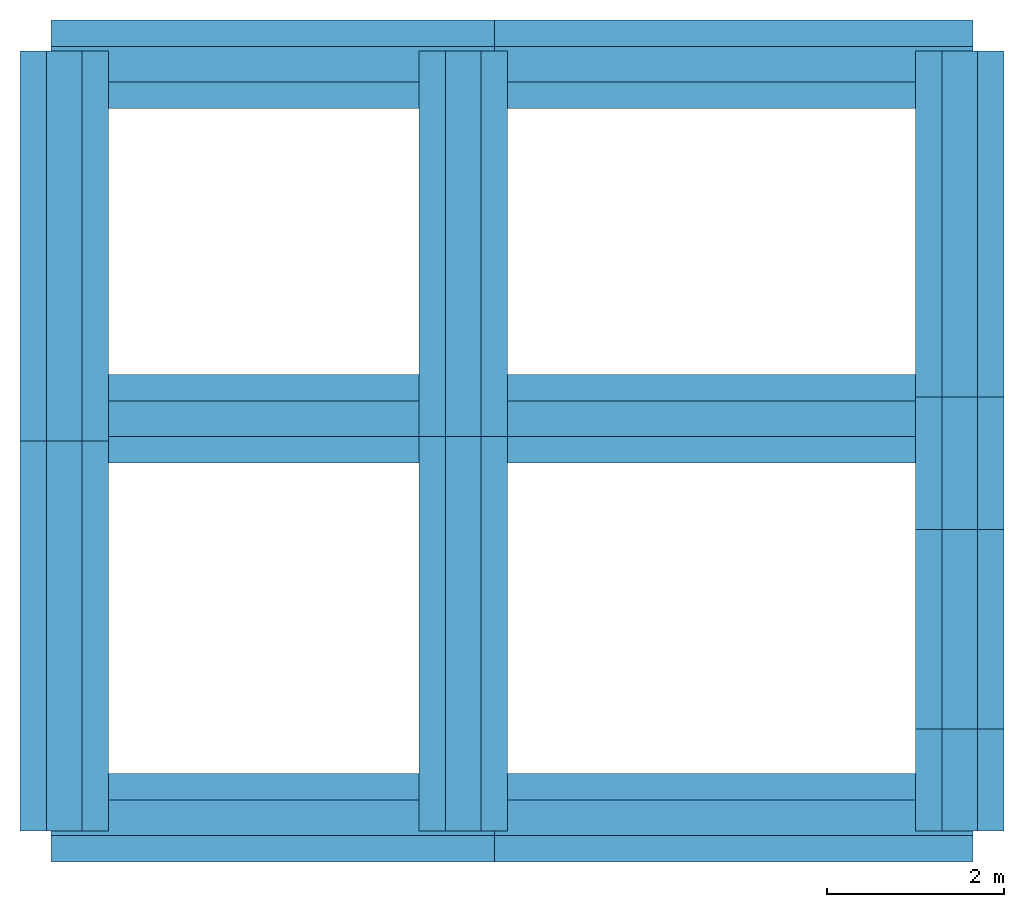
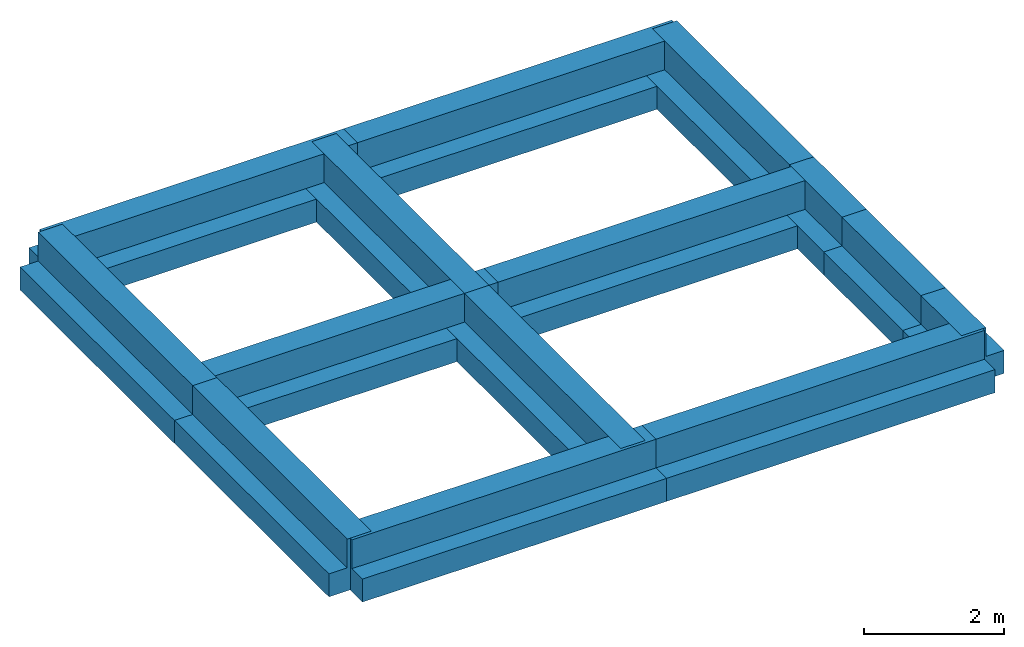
# One storey: 14 beams.
"""IFC2X3 building model written with IfcOpenShell, lengths in metres."""

from ifc_helpers import new_model, si_unit, direction, frame, origin, place, context, project, spatial, polyline, outline, extrude, shape, element, save


model = new_model("IFC2X3")

# Units and contexts
model_context = context("Model", 3, precision=0.0, world=origin(), true_north=direction((0.0, 1.0)))
plan_context = context("Plan", 3, precision=0.0, world=origin(), true_north=direction((0.0, 1.0)))
ifc_project = project(units=[si_unit("LENGTHUNIT", "METRE"), si_unit("AREAUNIT", "SQUARE_METRE"), si_unit("VOLUMEUNIT", "CUBIC_METRE"), si_unit("PLANEANGLEUNIT", "RADIAN"), si_unit("THERMODYNAMICTEMPERATUREUNIT", "DEGREE_CELSIUS"), si_unit("FORCEUNIT", "NEWTON"), si_unit("MASSUNIT", "GRAM", prefix="KILO")], contexts=[model_context, plan_context])

# Site, building, storey
placement = place(None, origin())
site = spatial("IfcSite", under=ifc_project, at=placement, Name="Default Site", CompositionType="ELEMENT")
building = spatial("IfcBuilding", under=site, at=placement, Name="Default Building", CompositionType="ELEMENT")
storey_placement = place(placement, frame((0.0, 0.0, 0.0), z_axis=(1.0, 0.0, 0.0), x_axis=(0.0, 0.0, 1.0)))
storey = spatial("IfcBuildingStorey", under=building, at=storey_placement, Name="Piano 0", CompositionType="ELEMENT", Elevation=0.0)

# Beams
beam_1_placement = place(None, frame((-0.15, 0.0, -0.55), z_axis=(1.0, 0.0, 0.0), x_axis=(0.0, 1.0, 0.0)))
element("IfcBeam", 1, at=beam_1_placement, inside=storey, Name="Trave:1 [Piano:0]", shapes=[
    shape(model_context, None, "SweptSolid", [extrude(outline(polyline([(-0.2, 0.05), (-0.2, 0.55), (0.2, 0.55), (0.2, 0.05), (0.5, 0.05), (0.5, -0.35), (-0.5, -0.35), (-0.5, 0.05)])), origin(), (0.0, 0.0, 1.0), 5.0)]),
])
beam_2_placement = place(None, frame((4.15, 0.0, -0.55), z_axis=(1.0, 0.0, 0.0), x_axis=(0.0, 1.0, 0.0)))
element("IfcBeam", 2, at=beam_2_placement, inside=storey, Name="Trave:2 [Piano:0]", shapes=[
    shape(model_context, None, "SweptSolid", [extrude(outline(polyline([(-0.2, 0.05), (-0.2, 0.55), (0.2, 0.55), (0.2, 0.05), (0.5, 0.05), (0.5, -0.35), (-0.5, -0.35), (-0.5, 0.05)])), origin(), (0.0, 0.0, 1.0), 6.1)]),
])
beam_3_placement = place(None, frame((-0.15, 4.5, -0.55), z_axis=(1.0, 0.0, 0.0), x_axis=(0.0, 1.0, 0.0)))
element("IfcBeam", 3, at=beam_3_placement, inside=storey, Name="Trave:3 [Piano:0]", shapes=[
    shape(model_context, None, "SweptSolid", [extrude(outline(polyline([(-0.2, 0.05), (-0.2, 0.55), (0.2, 0.55), (0.2, 0.05), (0.5, 0.05), (0.5, -0.35), (-0.5, -0.35), (-0.5, 0.05)])), origin(), (0.0, 0.0, 1.0), 5.0)]),
])
beam_4_placement = place(None, frame((4.15, 4.5, -0.55), z_axis=(1.0, 0.0, 0.0), x_axis=(0.0, 1.0, 0.0)))
element("IfcBeam", 4, at=beam_4_placement, inside=storey, Name="Trave:4 [Piano:0]", shapes=[
    shape(model_context, None, "SweptSolid", [extrude(outline(polyline([(-0.2, 0.05), (-0.2, 0.55), (0.2, 0.55), (0.2, 0.05), (0.5, 0.05), (0.5, -0.35), (-0.5, -0.35), (-0.5, 0.05)])), origin(), (0.0, 0.0, 1.0), 6.1)]),
])
beam_5_placement = place(None, frame((-0.15, 8.5, -0.55), z_axis=(1.0, 0.0, 0.0), x_axis=(0.0, 1.0, 0.0)))
element("IfcBeam", 5, at=beam_5_placement, inside=storey, Name="Trave:5 [Piano:0]", shapes=[
    shape(model_context, None, "SweptSolid", [extrude(outline(polyline([(-0.2, 0.05), (-0.2, 0.55), (0.2, 0.55), (0.2, 0.05), (0.5, 0.05), (0.5, -0.35), (-0.5, -0.35), (-0.5, 0.05)])), origin(), (0.0, 0.0, 1.0), 5.0)]),
])
beam_6_placement = place(None, frame((4.15, 8.5, -0.55), z_axis=(1.0, 0.0, 0.0), x_axis=(0.0, 1.0, 0.0)))
element("IfcBeam", 6, at=beam_6_placement, inside=storey, Name="Trave:6 [Piano:0]", shapes=[
    shape(model_context, None, "SweptSolid", [extrude(outline(polyline([(-0.2, 0.05), (-0.2, 0.55), (0.2, 0.55), (0.2, 0.05), (0.5, 0.05), (0.5, -0.35), (-0.5, -0.35), (-0.5, 0.05)])), origin(), (0.0, 0.0, 1.0), 6.1)]),
])
beam_7_placement = place(None, frame((0.0, -0.15, -0.55), z_axis=(0.0, 1.0, 0.0), x_axis=(-1.0, 0.0, 0.0)))
element("IfcBeam", 7, at=beam_7_placement, inside=storey, Name="Trave:7 [Piano:0]", shapes=[
    shape(model_context, None, "SweptSolid", [extrude(outline(polyline([(-0.2, 0.05), (-0.2, 0.55), (0.2, 0.55), (0.2, 0.05), (0.5, 0.05), (0.5, -0.35), (-0.5, -0.35), (-0.5, 0.05)])), origin(), (0.0, 0.0, 1.0), 4.9)]),
])
beam_8_placement = place(None, frame((0.0, 4.25, -0.55), z_axis=(0.0, 1.0, 0.0), x_axis=(-1.0, 0.0, 0.0)))
element("IfcBeam", 8, at=beam_8_placement, inside=storey, Name="Trave:8 [Piano:0]", shapes=[
    shape(model_context, None, "SweptSolid", [extrude(outline(polyline([(-0.2, 0.05), (-0.2, 0.55), (0.2, 0.55), (0.2, 0.05), (0.5, 0.05), (0.5, -0.35), (-0.5, -0.35), (-0.5, 0.05)])), origin(), (0.0, 0.0, 1.0), 4.4)]),
])
beam_9_placement = place(None, frame((4.5, -0.15, -0.55), z_axis=(0.0, 1.0, 0.0), x_axis=(-1.0, 0.0, 0.0)))
element("IfcBeam", 9, at=beam_9_placement, inside=storey, Name="Trave:9 [Piano:0]", shapes=[
    shape(model_context, None, "SweptSolid", [extrude(outline(polyline([(-0.2, 0.05), (-0.2, 0.55), (0.2, 0.55), (0.2, 0.05), (0.5, 0.05), (0.5, -0.35), (-0.5, -0.35), (-0.5, 0.05)])), origin(), (0.0, 0.0, 1.0), 4.85)]),
])
beam_10_placement = place(None, frame((10.1, -0.15, -0.55), z_axis=(0.0, 1.0, 0.0), x_axis=(-1.0, 0.0, 0.0)))
element("IfcBeam", 10, at=beam_10_placement, inside=storey, Name="Trave:10 [Piano:0]", shapes=[
    shape(model_context, None, "SweptSolid", [extrude(outline(polyline([(-0.2, 0.05), (-0.2, 0.55), (0.2, 0.55), (0.2, 0.05), (0.5, 0.05), (0.5, -0.35), (-0.5, -0.35), (-0.5, 0.05)])), origin(), (0.0, 0.0, 1.0), 1.15)]),
])
beam_11_placement = place(None, frame((4.5, 4.3, -0.55), z_axis=(0.0, 1.0, 0.0), x_axis=(-1.0, 0.0, 0.0)))
element("IfcBeam", 11, at=beam_11_placement, inside=storey, Name="Trave:11 [Piano:0]", shapes=[
    shape(model_context, None, "SweptSolid", [extrude(outline(polyline([(-0.2, 0.05), (-0.2, 0.55), (0.2, 0.55), (0.2, 0.05), (0.5, 0.05), (0.5, -0.35), (-0.5, -0.35), (-0.5, 0.05)])), origin(), (0.0, 0.0, 1.0), 4.35)]),
])
beam_12_placement = place(None, frame((10.1, 4.25, -0.55), z_axis=(0.0, 1.0, 0.0), x_axis=(-1.0, 0.0, 0.0)))
element("IfcBeam", 12, at=beam_12_placement, inside=storey, Name="Trave:12 [Piano:0]", shapes=[
    shape(model_context, None, "SweptSolid", [extrude(outline(polyline([(-0.2, 0.05), (-0.2, 0.55), (0.2, 0.55), (0.2, 0.05), (0.5, 0.05), (0.5, -0.35), (-0.5, -0.35), (-0.5, 0.05)])), origin(), (0.0, 0.0, 1.0), 4.4)]),
])
beam_13_placement = place(None, frame((10.1, 1.0, -0.55), z_axis=(0.0, 1.0, 0.0), x_axis=(-1.0, 0.0, 0.0)))
element("IfcBeam", 13, at=beam_13_placement, inside=storey, Name="Trave:13 [Piano:0]", shapes=[
    shape(model_context, None, "SweptSolid", [extrude(outline(polyline([(-0.2, 0.05), (-0.2, 0.55), (0.2, 0.55), (0.2, 0.05), (0.5, 0.05), (0.5, -0.35), (-0.5, -0.35), (-0.5, 0.05)])), origin(), (0.0, 0.0, 1.0), 2.75)]),
])
beam_14_placement = place(None, frame((10.1, 3.25, -0.55), z_axis=(0.0, 1.0, 0.0), x_axis=(-1.0, 0.0, 0.0)))
element("IfcBeam", 14, at=beam_14_placement, inside=storey, Name="Trave:14 [Piano:0]", shapes=[
    shape(model_context, None, "SweptSolid", [extrude(outline(polyline([(-0.2, 0.05), (-0.2, 0.55), (0.2, 0.55), (0.2, 0.05), (0.5, 0.05), (0.5, -0.35), (-0.5, -0.35), (-0.5, 0.05)])), origin(), (0.0, 0.0, 1.0), 1.5)]),
])

save(model, "model.ifc")
